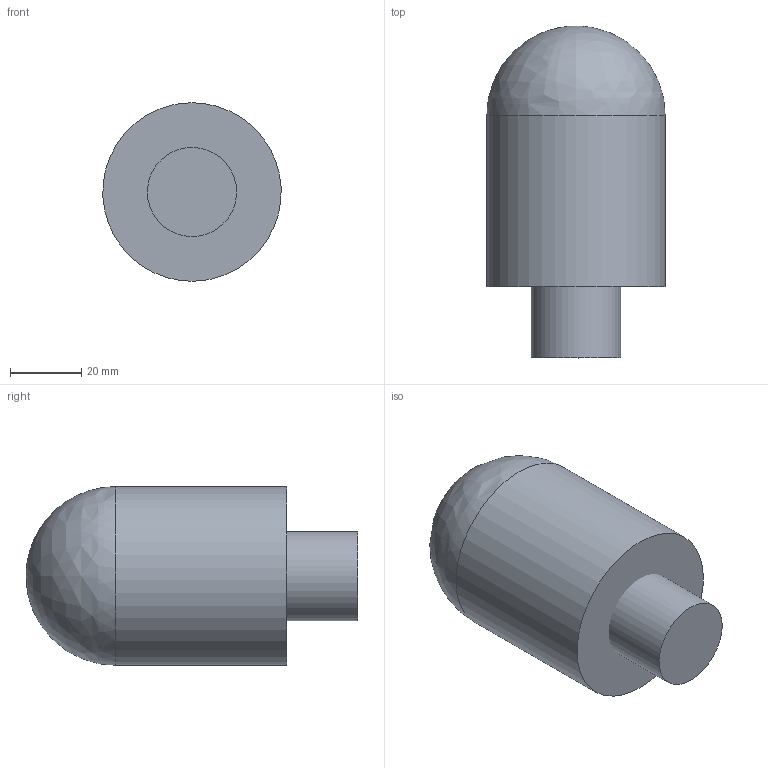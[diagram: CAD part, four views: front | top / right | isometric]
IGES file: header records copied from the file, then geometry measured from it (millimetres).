
Bounding box: 49.94 x 93 x 50 mm (x, y, z)
Volume: 164095.5 mm3; surface area: 20192.5 mm2
Topology: 2 solids, 2 shells, 9 faces, 23 edges, 16 vertices
Faces by surface type: bspline 9
